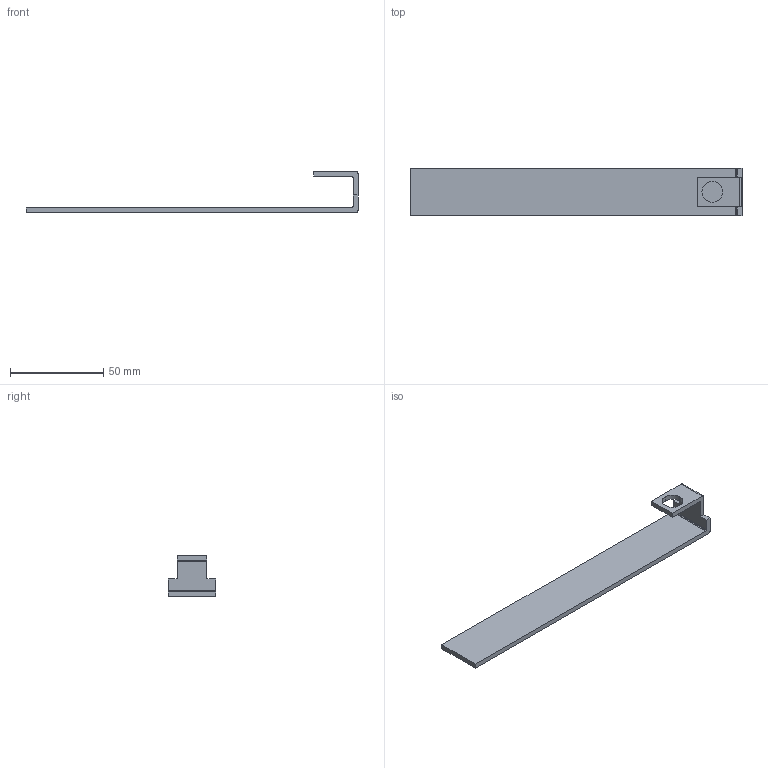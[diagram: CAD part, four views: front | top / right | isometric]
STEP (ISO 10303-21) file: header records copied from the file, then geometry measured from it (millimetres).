
FILE_DESCRIPTION(('TurboCAD Mac Pro'),'Build 980');
FILE_NAME('P1654A.stp',' ',(''),(''),'ACIS Interop','IMSI','TurboCAD Mac Pro BY IMSI, INCORPORATED');
FILE_SCHEMA(('automotive_design'));
Length unit declared in the file: inch
Products named in the file (1): 1
Bounding box: 177.8 x 25.4 x 22.23 mm (x, y, z)
Volume: 13672.5 mm3; surface area: 11620.5 mm2
Topology: 1 solids, 1 shells, 26 faces, 72 edges, 48 vertices
Faces by surface type: plane 14, cylinder 8, bspline 4
Entity records: 1092 total; most frequent: CARTESIAN_POINT 199, ORIENTED_EDGE 144, DIRECTION 126, EDGE_CURVE 72, VERTEX_POINT 48, LINE 48, VECTOR 48, AXIS2_PLACEMENT_3D 39
